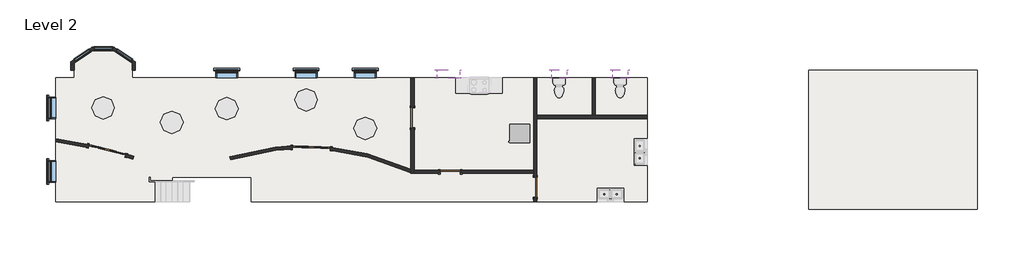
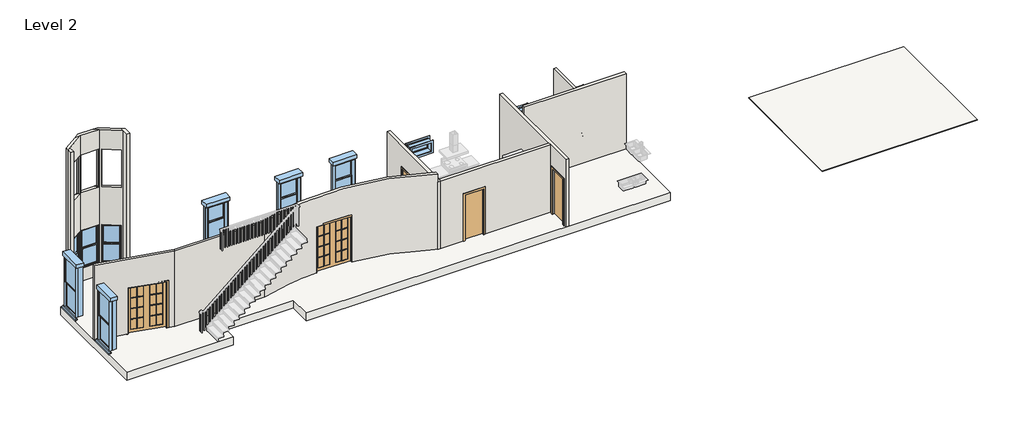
# One storey, part 1 of 2: 13 walls, 11 windows, 5 doors, 1 roof, 1 slab.
"""IFC4 building model written with IfcOpenShell, lengths in millimetres."""

from ifc_helpers import new_model, si_unit, point, frame, frame_2d, origin, place, context, project, spatial, polyline, circle_curve, trimmed, segment, composite_curve, outline, extrude, faceted_brep, transform, mapped, element, save
from ifc_brep_helpers import plane_surface, cylinder_surface, revolved_surface, advanced_brep
from components import door_341c2aa2, door_a75b9756, window_288415e7, window_0ba6dfd4, window_be88543d, window_9c3e4402, window_bb48f2e8

model = new_model("IFC4")

# Units and contexts
model_context = context("Model", 3, world=origin())
ifc_project = project(units=[si_unit("LENGTHUNIT", "METRE", prefix="MILLI")], contexts=[model_context])

# Site, building, storey
site = spatial("IfcSite", under=ifc_project)
building = spatial("IfcBuilding", under=site)
storey = spatial("IfcBuildingStorey", under=building, Name="Level 2", Elevation=3505.2)

# Doors
placement = place(None, origin())
door_shape = door_341c2aa2(model_context)
element("IfcDoor", 1, ObjectType="DOOR- : 60\" x 84\"", at=placement, inside=storey, context=model_context, shape_type="MappedRepresentation", body=[
    mapped(door_shape, transform((-9702.5941765, 363.3320311, 3505.2), x_axis=(0.999522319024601, -0.03090523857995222, 0.0), y_axis=(0.03090523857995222, 0.999522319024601, 0.0), z_axis=(0.0, 0.0, 1.0))),
])
element("IfcDoor", 2, ObjectType="DOOR- : 60\" x 84\"", at=placement, inside=storey, context=model_context, shape_type="MappedRepresentation", body=[
    mapped(door_shape, transform((-17945.6011441, 260.6575416, 3505.2), x_axis=(0.9696003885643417, -0.24469386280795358, 0.0), y_axis=(0.24469386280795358, 0.9696003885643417, 0.0), z_axis=(0.0, 0.0, 1.0))),
])
door_2_shape = door_a75b9756(model_context)
element("IfcDoor", 3, ObjectType="DOOR-Single-Flush : 32\" x 84\"", at=placement, inside=storey, context=model_context, shape_type="MappedRepresentation", body=[
    mapped(door_2_shape, transform((-5624.6535292, 1585.9435985, 3505.2), x_axis=(0.0, 1.0, 0.0), y_axis=(-1.0, 0.0, 0.0), z_axis=(0.0, 0.0, 1.0))),
])
element("IfcDoor", 4, ObjectType="DOOR-Single-Flush : 32\" x 84\"", at=placement, inside=storey, context=model_context, shape_type="MappedRepresentation", body=[
    mapped(door_2_shape, transform((-671.6535292, -1220.7564015, 3505.2), x_axis=(0.0, -1.0, 0.0), y_axis=(1.0, 0.0, 0.0), z_axis=(0.0, 0.0, 1.0))),
])
element("IfcDoor", 5, ObjectType="DOOR-Single-Flush : 32\" x 84\"", at=placement, inside=storey, context=model_context, shape_type="MappedRepresentation", body=[
    mapped(door_2_shape, transform((-4100.6535292, -592.1064015, 3505.2), x_axis=(1.0, 0.0, 0.0), y_axis=(0.0, 1.0, 0.0), z_axis=(0.0, 0.0, 1.0))),
])

# Roof
element("IfcRoof", 6, ObjectType="Generic - 1\"", at=placement, inside=storey, context=model_context, shape_type="SweptSolid", body=[
    extrude(outline(polyline([(10364.6464708, -2103.4064015), (10364.6464708, 3509.9935985), (17171.8464708, 3509.9935985), (17171.8464708, -2103.4064015), (10364.6464708, -2103.4064015)])), frame((0.0, 0.0, 2387.6), z_axis=(0.0, 0.0, 1.0), x_axis=(1.0, 0.0, 0.0)), (0.0, 0.0, 1.0), 25.4),
])

# Slab
element("IfcSlab", 7, ObjectType="1501 Joist floor", at=placement, inside=storey, context=model_context, shape_type="SweptSolid", body=[
    extrude(outline(polyline([(-19277.130434, 3205.1935985), (-19277.130434, 3789.3935985), (-18523.989462, 4297.3935985), (-17693.471406, 4297.3935985), (-16940.330434, 3789.3935985), (-16940.330434, 3205.1935985), (3849.5464708, 3205.1935985), (3849.5464708, -1798.6064015), (-12127.0535292, -1798.6064015), (-12127.0535292, -820.7064015), (-15327.4535292, -820.7064015), (-15327.4535292, -1798.6064015), (-20013.7535292, -1798.6064015), (-20013.7535292, 3205.1935985), (-19277.130434, 3205.1935985)])), frame((0.0, 0.0, 3143.25), z_axis=(0.0, 0.0, 1.0), x_axis=(1.0, 0.0, 0.0)), (0.0, 0.0, 1.0), 361.95),
])

# Walls
element("IfcWall", 8, ObjectType="1501 Bay Window Exterior wall", at=placement, inside=storey, context=model_context, shape_type="Brep", body=[
    faceted_brep([(-16813.330434, 3509.9935985, 2906.8100775), (-16813.330434, 3856.9206963, 2906.8100775), (-16813.330434, 3856.9206963, 10287.0), (-16813.330434, 3509.9935985, 10287.0), (-16940.330434, 3942.5832779, 2906.8100775), (-16940.330434, 3509.9935985, 2906.8100775), (-16940.330434, 3509.9935985, 3143.25), (-16940.330434, 3509.9935985, 10287.0), (-16940.330434, 3789.3935985, 10287.0), (-16940.330434, 3942.5832779, 10287.0), (-16940.330434, 3942.5832779, 9378.95), (-16940.330434, 3906.2004866, 9378.95), (-16940.330434, 3906.2004866, 7626.35), (-16940.330434, 3942.5832779, 7626.35), (-16940.330434, 3942.5832779, 5867.4), (-16940.330434, 3906.2004866, 5867.4), (-16940.330434, 3906.2004866, 4114.8), (-16940.330434, 3942.5832779, 4114.8), (-16923.4636657, 3931.206499, 4114.8), (-16923.4636657, 3931.206499, 5867.4), (-16923.4636657, 3931.206499, 7626.35), (-16923.4636657, 3931.206499, 9378.95)], [[[0, 1, 2, 3]], [[4, 5, 6, 7, 8, 9, 10, 11, 12, 13, 14, 15, 16, 17]], [[1, 0, 5, 4]], [[3, 2, 9, 8, 7]], [[2, 1, 4, 17, 18, 19, 14, 13, 20, 21, 10, 9]], [[15, 19, 18, 16]], [[16, 18, 17]], [[19, 15, 14]], [[11, 21, 20, 12]], [[12, 20, 13]], [[21, 11, 10]], [[0, 3, 7, 6, 5]]]),
])
element("IfcWall", 9, ObjectType="1501 Bay Window Exterior wall", at=placement, inside=storey, context=model_context, shape_type="Brep", body=[
    faceted_brep([(-16940.330434, 3942.5832779, 2905.7063073), (-17654.6436095, 4424.3935985, 2905.7063073), (-17654.6436095, 4424.3935985, 3346.5435033), (-17654.6436095, 4424.3935985, 8764.0583333), (-17654.6436095, 4424.3935985, 10287.0), (-16940.330434, 3942.5832779, 10287.0), (-16940.330434, 3942.5832779, 9378.95), (-17555.190296, 4357.3114915, 9378.95), (-17555.190296, 4357.3114915, 7626.35), (-16940.330434, 3942.5832779, 7626.35), (-16940.330434, 3942.5832779, 5867.4), (-17555.190296, 4357.3114915, 5867.4), (-17555.190296, 4357.3114915, 4114.8), (-16940.330434, 3942.5832779, 4114.8), (-16940.330434, 3942.5832779, 2906.8100775), (-17881.756649, 4424.3935985, 2905.7063073), (-17693.471406, 4297.3935985, 2905.7063073), (-16940.330434, 3789.3935985, 2905.7063073), (-16940.330434, 3789.3935985, 10287.0), (-17693.471406, 4297.3935985, 10287.0), (-17881.756649, 4424.3935985, 10287.0), (-17881.756649, 4424.3935985, 9378.95), (-17727.7207329, 4320.4950611, 9378.95), (-17727.7207329, 4320.4950611, 7626.35), (-17881.756649, 4424.3935985, 7626.35), (-17881.756649, 4424.3935985, 5867.4), (-17727.7207329, 4320.4950611, 5867.4), (-17727.7207329, 4320.4950611, 4114.8), (-17881.756649, 4424.3935985, 4114.8), (-16994.4811644, 3825.9187273, 5867.4), (-16994.4811644, 3825.9187273, 4114.8), (-17626.2077947, 4252.0237198, 4114.8), (-17626.2077947, 4252.0237198, 5867.4), (-16994.4811644, 3825.9187273, 9378.95), (-16994.4811644, 3825.9187273, 7626.35), (-17626.2077947, 4252.0237198, 7626.35), (-17626.2077947, 4252.0237198, 9378.95), (-16940.330434, 3906.2004866, 4114.8), (-16940.330434, 3906.2004866, 5867.4), (-16940.330434, 3906.2004866, 7626.35), (-16940.330434, 3906.2004866, 9378.95), (-17727.7207329, 4424.3935985, 4114.8), (-17727.7207329, 4424.3935985, 5867.4), (-17727.7207329, 4424.3935985, 7626.35), (-17727.7207329, 4424.3935985, 9378.95)], [[[0, 1, 2, 3, 4, 5, 6, 7, 8, 9, 10, 11, 12, 13, 14]], [[15, 16, 17, 18, 19, 20, 21, 22, 23, 24, 25, 26, 27, 28], [29, 30, 31, 32], [33, 34, 35, 36]], [[1, 0, 17, 16, 15]], [[5, 4, 20, 19, 18]], [[5, 18, 17, 0, 14, 13, 37, 38, 10, 9, 39, 40, 6]], [[1, 15, 28, 41, 42, 25, 24, 43, 44, 21, 20, 4, 3, 2]], [[26, 42, 41, 27]], [[27, 41, 28]], [[42, 26, 25]], [[29, 38, 37, 30]], [[30, 37, 13, 12, 31]], [[31, 12, 11, 32]], [[38, 29, 32, 11, 10]], [[33, 40, 39, 34]], [[34, 39, 9, 8, 35]], [[35, 8, 7, 36]], [[40, 33, 36, 7, 6]], [[22, 44, 43, 23]], [[23, 43, 24]], [[44, 22, 21]]]),
])
element("IfcWall", 10, ObjectType="1501 Bay Window Exterior wall", at=placement, inside=storey, context=model_context, shape_type="Brep", body=[
    faceted_brep([(-17881.756649, 4424.3935985, 2905.7063073), (-18562.8172586, 4424.3935985, 2905.7063073), (-18562.8172586, 4424.3935985, 10287.0), (-17881.756649, 4424.3935985, 10287.0), (-17881.756649, 4424.3935985, 9378.95), (-18489.7207329, 4424.3935985, 9378.95), (-18489.7207329, 4424.3935985, 7626.35), (-17881.756649, 4424.3935985, 7626.35), (-17881.756649, 4424.3935985, 5867.4), (-18489.7207329, 4424.3935985, 5867.4), (-18489.7207329, 4424.3935985, 4114.8), (-17881.756649, 4424.3935985, 4114.8), (-18751.1025016, 4297.3935985, 2905.7063073), (-17693.471406, 4297.3935985, 2905.7063073), (-17693.471406, 4297.3935985, 10287.0), (-18523.989462, 4297.3935985, 10287.0), (-18751.1025016, 4297.3935985, 10287.0), (-18751.1025016, 4297.3935985, 9378.95), (-18612.0211452, 4297.3935985, 9378.95), (-18612.0211452, 4297.3935985, 7626.35), (-18751.1025016, 4297.3935985, 7626.35), (-18751.1025016, 4297.3935985, 5867.4), (-18612.0211452, 4297.3935985, 5867.4), (-18612.0211452, 4297.3935985, 4114.8), (-18751.1025016, 4297.3935985, 4114.8), (-18751.1025016, 4297.3935985, 2906.6522269), (-17727.7207329, 4297.3935985, 5867.4), (-17727.7207329, 4297.3935985, 4114.8), (-18489.7207329, 4297.3935985, 4114.8), (-18489.7207329, 4297.3935985, 5867.4), (-17727.7207329, 4297.3935985, 9378.95), (-17727.7207329, 4297.3935985, 7626.35), (-18489.7207329, 4297.3935985, 7626.35), (-18489.7207329, 4297.3935985, 9378.95), (-17727.7207329, 4320.4950611, 4114.8), (-17727.7207329, 4320.4950611, 5867.4), (-17727.7207329, 4320.4950611, 7626.35), (-17727.7207329, 4320.4950611, 9378.95), (-18655.5114269, 4361.8705925, 4114.8), (-18655.5114269, 4361.8705925, 5867.4), (-18655.5114269, 4361.8705925, 7626.35), (-18655.5114269, 4361.8705925, 9378.95)], [[[0, 1, 2, 3, 4, 5, 6, 7, 8, 9, 10, 11]], [[12, 13, 14, 15, 16, 17, 18, 19, 20, 21, 22, 23, 24, 25], [26, 27, 28, 29], [30, 31, 32, 33]], [[1, 0, 13, 12]], [[3, 2, 16, 15, 14]], [[3, 14, 13, 0, 11, 34, 35, 8, 7, 36, 37, 4]], [[2, 1, 12, 25, 24, 38, 39, 21, 20, 40, 41, 17, 16]], [[22, 39, 38, 23]], [[23, 38, 24]], [[39, 22, 21]], [[26, 35, 34, 27]], [[27, 34, 11, 10, 28]], [[28, 10, 9, 29]], [[35, 26, 29, 9, 8]], [[30, 37, 36, 31]], [[31, 36, 7, 6, 32]], [[32, 6, 5, 33]], [[37, 30, 33, 5, 4]], [[18, 41, 40, 19]], [[19, 40, 20]], [[41, 18, 17]]]),
])
element("IfcWall", 11, ObjectType="1501 Bay Window Exterior wall", at=placement, inside=storey, context=model_context, shape_type="Brep", body=[
    faceted_brep([(-18751.1025016, 4297.3935985, 2906.6522269), (-19404.130434, 3856.9206963, 2906.6522269), (-19404.130434, 3856.9206963, 3375.1185033), (-19404.130434, 3856.9206963, 8764.0583333), (-19404.130434, 3856.9206963, 10287.0), (-18751.1025016, 4297.3935985, 10287.0), (-18751.1025016, 4297.3935985, 9378.95), (-19287.2380571, 3935.7656001, 9378.95), (-19287.2380571, 3935.7656001, 7626.35), (-18751.1025016, 4297.3935985, 7626.35), (-18751.1025016, 4297.3935985, 5867.4), (-19287.2380571, 3935.7656001, 5867.4), (-19287.2380571, 3935.7656001, 4114.8), (-18751.1025016, 4297.3935985, 4114.8), (-19404.130434, 3703.7310168, 2906.6522269), (-19277.130434, 3789.3935985, 2906.6522269), (-18523.989462, 4297.3935985, 2906.6522269), (-18523.989462, 4297.3935985, 10287.0), (-19277.130434, 3789.3935985, 10287.0), (-19404.130434, 3703.7310168, 10287.0), (-18584.4939281, 4256.5828208, 5867.4), (-18584.4939281, 4256.5828208, 4114.8), (-19216.2205584, 3830.4778284, 4114.8), (-19216.2205584, 3830.4778284, 5867.4), (-18584.4939281, 4256.5828208, 9378.95), (-18584.4939281, 4256.5828208, 7626.35), (-19216.2205584, 3830.4778284, 7626.35), (-19216.2205584, 3830.4778284, 9378.95), (-18612.0211452, 4297.3935985, 4114.8), (-18612.0211452, 4297.3935985, 5867.4), (-18612.0211452, 4297.3935985, 7626.35), (-18612.0211452, 4297.3935985, 9378.95)], [[[0, 1, 2, 3, 4, 5, 6, 7, 8, 9, 10, 11, 12, 13]], [[14, 15, 16, 17, 18, 19], [20, 21, 22, 23], [24, 25, 26, 27]], [[1, 0, 16, 15, 14]], [[5, 4, 19, 18, 17]], [[5, 17, 16, 0, 13, 28, 29, 10, 9, 30, 31, 6]], [[1, 14, 19, 4, 3, 2]], [[20, 29, 28, 21]], [[21, 28, 13, 12, 22]], [[22, 12, 11, 23]], [[29, 20, 23, 11, 10]], [[24, 31, 30, 25]], [[25, 30, 9, 8, 26]], [[26, 8, 7, 27]], [[31, 24, 27, 7, 6]]]),
])
element("IfcWall", 12, ObjectType="1501 Bay Window Exterior wall", at=placement, inside=storey, context=model_context, shape_type="Brep", body=[
    faceted_brep([(-19404.130434, 3703.7310168, 2906.6522269), (-19404.130434, 3509.9935985, 2906.6522269), (-19404.130434, 3509.9935985, 10287.0), (-19404.130434, 3703.7310168, 10287.0), (-19277.130434, 3789.3935985, 2906.6522269), (-19277.130434, 3789.3935985, 10287.0), (-19277.130434, 3509.9935985, 10287.0), (-19277.130434, 3509.9935985, 3143.25), (-19277.130434, 3509.9935985, 2906.6522269)], [[[0, 1, 2, 3]], [[4, 5, 6, 7, 8]], [[1, 0, 4, 8]], [[3, 2, 6, 5]], [[0, 3, 5, 4]], [[1, 8, 7, 6, 2]]]),
])
element("IfcWall", 13, ObjectType="Generic - 5\"", at=placement, inside=storey, context=model_context, shape_type="Brep", body=[
    faceted_brep([(-608.1535292, -1798.6064015, 3505.2), (-608.1535292, -1627.1564015, 3505.2), (-608.1535292, -1627.1564015, 5638.8), (-608.1535292, -814.3564015, 5638.8), (-608.1535292, -814.3564015, 3505.2), (-608.1535292, 1554.1935985, 3505.2), (-608.1535292, 1681.1935985, 3505.2), (-608.1535292, 3205.1935985, 3505.2), (-608.1535292, 3205.1935985, 6648.45), (-608.1535292, -1798.6064015, 6648.45), (-735.1535292, -1627.1564015, 5638.8), (-735.1535292, -1627.1564015, 3505.2), (-735.1535292, -1798.6064015, 3505.2), (-735.1535292, -1798.6064015, 6648.45), (-735.1535292, -655.6064015, 6648.45), (-735.1535292, -528.6064015, 6648.45), (-735.1535292, 3205.1935985, 6648.45), (-735.1535292, 3205.1935985, 3505.2), (-735.1535292, -528.6064015, 3505.2), (-735.1535292, -655.6064015, 3505.2), (-735.1535292, -814.3564015, 3505.2), (-735.1535292, -814.3564015, 5638.8)], [[[0, 1, 2, 3, 4, 5, 6, 7, 8, 9]], [[10, 11, 12, 13, 14, 15, 16, 17, 18, 19, 20, 21]], [[12, 11, 1, 0]], [[20, 19, 18, 17, 7, 6, 5, 4]], [[9, 8, 16, 15, 14, 13]], [[8, 7, 17, 16]], [[0, 9, 13, 12]], [[2, 1, 11, 10]], [[3, 2, 10, 21]], [[4, 3, 21, 20]]]),
])
element("IfcWall", 14, ObjectType="Generic - 5\"", at=placement, inside=storey, context=model_context, shape_type="Brep", body=[
    faceted_brep([(-5561.1535292, 3205.1935985, 6648.45), (-5561.1535292, -528.6064015, 6648.45), (-5561.1535292, -655.6064015, 6648.45), (-5561.1535292, -655.6064015, 3505.2), (-5561.1535292, -528.6064015, 3505.2), (-5561.1535292, 1179.5435985, 3505.2), (-5561.1535292, 1179.5435985, 5638.8), (-5561.1535292, 1992.3435985, 5638.8), (-5561.1535292, 1992.3435985, 3505.2), (-5561.1535292, 3205.1935985, 3505.2), (-5688.1535292, -655.6064015, 6648.45), (-5688.1535292, 3205.1935985, 6648.45), (-5688.1535292, 3205.1935985, 3505.2), (-5688.1535292, 1992.3435985, 3505.2), (-5688.1535292, 1992.3435985, 5638.8), (-5688.1535292, 1179.5435985, 5638.8), (-5688.1535292, 1179.5435985, 3505.2), (-5688.1535292, -492.2644793, 3505.2), (-5688.1535292, -632.3638108, 3505.2), (-5688.1535292, -655.6064015, 3505.2)], [[[0, 1, 2, 3, 4, 5, 6, 7, 8, 9]], [[10, 11, 12, 13, 14, 15, 16, 17, 18, 19]], [[12, 9, 8, 13]], [[3, 19, 18, 17, 16, 5, 4]], [[2, 1, 0, 11, 10]], [[0, 9, 12, 11]], [[7, 14, 13, 8]], [[14, 7, 6, 15]], [[15, 6, 5, 16]], [[3, 2, 10, 19]]]),
])
element("IfcWall", 15, ObjectType="Generic - 5\"", at=placement, inside=storey, context=model_context, shape_type="SweptSolid", body=[
    extrude(outline(polyline([(5638.8, -3694.2535292), (3505.2, -3694.2535292), (3505.2, -735.1535292), (6648.45, -735.1535292), (6648.45, -5561.1535292), (3505.2, -5561.1535292), (3505.2, -4507.0535292), (5638.8, -4507.0535292), (5638.8, -3694.2535292)])), frame((0.0, -655.6064015, 0.0), z_axis=(0.0, 1.0, 0.0), x_axis=(0.0, 0.0, 1.0)), (0.0, 0.0, 1.0), 127.0),
])
element("IfcWall", 16, ObjectType="Generic - 5\"", at=placement, inside=storey, context=model_context, shape_type="SweptSolid", body=[
    extrude(outline(composite_curve([segment(polyline([(-13000.5037916, 20.1149555), (-12963.8118242, -101.4691698)]), True, "CONTINUOUS"), segment(trimmed(circle_curve(frame_2d((-14904.9931191, 6330.9149966)), 6718.9099476), [point((-12963.8118242, -101.4691698))], [point((-16905.2361275, -83.3487017))], False, "CARTESIAN"), True, "CONTINUOUS"), segment(polyline([(-16905.2361275, -83.3487017), (-16867.4277829, 37.8929128)]), True, "CONTINUOUS"), segment(trimmed(circle_curve(frame_2d((-14904.9931191, 6330.9149966)), 6591.9099476), [point((-16867.4277829, 37.8929128))], [point((-13000.5037916, 20.1149555))], True, "CARTESIAN"), True, "CONTINUOUS")], self_intersect=False)), frame((0.0, 0.0, 3505.2), z_axis=(0.0, 0.0, 1.0), x_axis=(1.0, 0.0, 0.0)), (0.0, 0.0, 1.0), 3505.2),
])
element("IfcWall", 17, ObjectType="Generic - 5\"", at=placement, inside=storey, context=model_context, shape_type="AdvancedBrep", body=[
    advanced_brep(
    [(-16867.4277829, 37.8929128, 7010.4), (-16905.2361275, -83.3487017, 7010.4), (-16905.2361275, -83.3487017, 3505.2), (-16867.4277829, 37.8929128, 3505.2), (-20013.7535292, 746.3767763, 7010.4), (-20013.7535292, 618.1013458, 7010.4), (-20013.7535292, 618.1013458, 3505.2), (-20013.7535292, 746.3767763, 3505.2), (-18668.8758067, 508.774129, 3505.2), (-18699.9747005, 385.5446404, 3505.2), (-17222.3037084, 12.6311935, 3505.2), (-17191.2048145, 135.8606821, 3505.2), (-17191.2048145, 135.8606821, 5638.8), (-18668.8758067, 508.774129, 5638.8), (-18699.9747005, 385.5446404, 5638.8), (-17222.3037084, 12.6311935, 5638.8)],
    [
        (0, 1),
        (1, 2),
        (2, 3),
        (3, 0),
        (0, 4, circle_curve(frame((-22815.110523, -19034.7924204, 7010.4), z_axis=(0.0, 0.0, 1.0), x_axis=(1.0, 0.0, 0.0)), 19978.5448869)),
        (4, 5),
        (5, 1, circle_curve(frame((-22815.110523, -19034.7924204, 7010.4), z_axis=(0.0, 0.0, -1.0), x_axis=(1.0, 0.0, 0.0)), 19851.5448869)),
        (6, 7),
        (7, 8, circle_curve(frame((-22815.110523, -19034.7924204, 3505.2), z_axis=(0.0, 0.0, -1.0), x_axis=(1.0, 0.0, 0.0)), 19978.5448869)),
        (8, 9),
        (9, 6, circle_curve(frame((-22815.110523, -19034.7924204, 3505.2), z_axis=(0.0, 0.0, 1.0), x_axis=(1.0, 0.0, 0.0)), 19851.5448869)),
        (2, 10, circle_curve(frame((-22815.110523, -19034.7924204, 3505.2), z_axis=(0.0, 0.0, 1.0), x_axis=(1.0, 0.0, 0.0)), 19851.5448869)),
        (10, 11),
        (11, 3, circle_curve(frame((-22815.110523, -19034.7924204, 3505.2), z_axis=(0.0, 0.0, -1.0), x_axis=(1.0, 0.0, 0.0)), 19978.5448869)),
        (11, 12),
        (12, 13, circle_curve(frame((-22815.110523, -19034.7924204, 5638.8), z_axis=(0.0, 0.0, 1.0), x_axis=(1.0, 0.0, 0.0)), 19978.5448869)),
        (13, 8),
        (7, 4),
        (5, 6),
        (9, 14),
        (14, 15, circle_curve(frame((-22815.110523, -19034.7924204, 5638.8), z_axis=(0.0, 0.0, -1.0), x_axis=(1.0, 0.0, 0.0)), 19851.5448869)),
        (15, 10),
        (15, 12),
        (14, 13),
    ],
    [
        plane_surface(frame((-16905.2361275, -83.3487017, 7010.4), z_axis=(0.9546583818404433, -0.2977035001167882, 0.0), x_axis=(0.0, 0.0, -1.0))),
        plane_surface(frame((-2836.5656361, -19034.7924204, 7010.4), z_axis=(0.0, 0.0, 1.0), x_axis=(0.0, 1.0, 0.0))),
        plane_surface(frame((-2836.5656361, -19034.7924204, 3505.2), z_axis=(0.0, 0.0, -1.0), x_axis=(0.0, -1.0, 0.0))),
        cylinder_surface(frame((-22815.110523, -19034.7924204, 3505.2), z_axis=(0.0, 0.0, 1.0), x_axis=(1.0, 0.0, 0.0)), 19978.5448869),
        revolved_surface(polyline([(-2963.5656361, -19034.7924204, 3505.2), (-2963.5656361, -19034.7924204, 7010.4)]), (-22815.110523, -19034.7924204, 3505.2), (0.0, 0.0, -1.0)),
        plane_surface(frame((-20013.7535292, 2290.7935985, -1117.6), z_axis=(-1.0, 0.0, 0.0), x_axis=(0.0, 1.0, 0.0))),
        plane_surface(frame((-17595.2171553, -1465.0397987, 3505.2), z_axis=(-0.969600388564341, 0.24469386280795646, 0.0), x_axis=(0.24469386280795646, 0.969600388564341, 0.0))),
        plane_surface(frame((-17595.2171553, -1465.0397987, 5638.8), z_axis=(0.0, 0.0, -1.0000000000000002), x_axis=(0.24469386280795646, 0.969600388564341, 0.0))),
        plane_surface(frame((-19072.8881474, -1092.1263517, 5638.8), z_axis=(0.969600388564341, -0.24469386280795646, 0.0), x_axis=(0.24469386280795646, 0.969600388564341, 0.0))),
    ],
    [
        (0, [[1, 2, 3, 4]]),
        (1, [[5, 6, 7, -1]]),
        (2, [[8, 9, 10, 11]]),
        (2, [[-3, 12, 13, 14]]),
        (3, [[-5, -4, -14, 15, 16, 17, -9, 18]]),
        (4, [[-7, 19, -11, 20, 21, 22, -12, -2]]),
        (5, [[-6, -18, -8, -19]]),
        (6, [[23, -15, -13, -22]]),
        (7, [[-23, -21, 24, -16]]),
        (8, [[-24, -20, -10, -17]]),
    ],
),
])
element("IfcWall", 18, ObjectType="Generic - 5\"", at=placement, inside=storey, context=model_context, shape_type="AdvancedBrep", body=[
    advanced_brep(
    [(-12963.8118242, -101.4691698, 7010.4), (-13000.5037916, 20.1149555, 7010.4), (-13000.5037916, 20.1149555, 3505.2), (-12963.8118242, -101.4691698, 3505.2), (-5688.1535292, -492.2644793, 7010.4), (-5688.1535292, -632.3638108, 7010.4), (-10462.2568248, 450.703242, 3505.2), (-10466.1926662, 323.4121556, 3505.2), (-5688.1535292, -492.2644793, 3505.2), (-5688.1535292, -632.3638108, 3505.2), (-8942.920652, 276.312572, 3505.2), (-8938.9848106, 403.6036584, 3505.2), (-8938.9848106, 403.6036584, 5638.8), (-10462.2568248, 450.703242, 5638.8), (-10466.1926662, 323.4121556, 5638.8), (-8942.920652, 276.312572, 5638.8)],
    [
        (0, 1),
        (1, 2),
        (2, 3),
        (3, 0),
        (4, 1, circle_curve(frame((-10018.7143566, -9860.4743535, 7010.4), z_axis=(0.0, 0.0, 1.0), x_axis=(1.0, 0.0, 0.0)), 10320.7128304)),
        (0, 5, circle_curve(frame((-10018.7143566, -9860.4743535, 7010.4), z_axis=(0.0, 0.0, -1.0), x_axis=(1.0, 0.0, 0.0)), 10193.7128304)),
        (5, 4),
        (2, 6, circle_curve(frame((-10018.7143566, -9860.4743535, 3505.2), z_axis=(0.0, 0.0, -1.0), x_axis=(1.0, 0.0, 0.0)), 10320.7128304)),
        (6, 7),
        (7, 3, circle_curve(frame((-10018.7143566, -9860.4743535, 3505.2), z_axis=(0.0, 0.0, 1.0), x_axis=(1.0, 0.0, 0.0)), 10193.7128304)),
        (8, 9),
        (9, 10, circle_curve(frame((-10018.7143566, -9860.4743535, 3505.2), z_axis=(0.0, 0.0, 1.0), x_axis=(1.0, 0.0, 0.0)), 10193.7128304)),
        (10, 11),
        (11, 8, circle_curve(frame((-10018.7143566, -9860.4743535, 3505.2), z_axis=(0.0, 0.0, -1.0), x_axis=(1.0, 0.0, 0.0)), 10320.7128304)),
        (4, 8),
        (11, 12),
        (12, 13, circle_curve(frame((-10018.7143566, -9860.4743535, 5638.8), z_axis=(0.0, 0.0, 1.0), x_axis=(1.0, 0.0, 0.0)), 10320.7128304)),
        (13, 6),
        (7, 14),
        (14, 15, circle_curve(frame((-10018.7143566, -9860.4743535, 5638.8), z_axis=(0.0, 0.0, -1.0), x_axis=(1.0, 0.0, 0.0)), 10193.7128304)),
        (15, 10),
        (9, 5),
        (15, 12),
        (14, 13),
    ],
    [
        plane_surface(frame((-13000.5037916, 20.1149555, 7010.4), z_axis=(-0.9573553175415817, -0.2889131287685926, 0.0), x_axis=(0.0, 0.0, -1.0))),
        plane_surface(frame((301.9984738, -9860.4743535, 7010.4), z_axis=(0.0, 0.0, 1.0), x_axis=(0.0, 1.0, 0.0))),
        plane_surface(frame((301.9984738, -9860.4743535, 3505.2), z_axis=(0.0, 0.0, -1.0), x_axis=(0.0, -1.0, 0.0))),
        cylinder_surface(frame((-10018.7143566, -9860.4743535, 3505.2), z_axis=(0.0, 0.0, 1.0), x_axis=(1.0, 0.0, 0.0)), 10320.7128304),
        revolved_surface(polyline([(174.99847380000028, -9860.4743535, 3505.2), (174.99847380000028, -9860.4743535, 7010.4)]), (-10018.7143566, -9860.4743535, 3505.2), (0.0, 0.0, -1.0)),
        plane_surface(frame((-5688.1535292, -1798.6064015, 3505.2), z_axis=(1.0, 0.0, 0.0), x_axis=(0.0, -1.0, 0.0))),
        plane_surface(frame((-8990.0202356, -1246.9594421, 3505.2), z_axis=(-0.9995223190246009, 0.030905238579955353, 0.0), x_axis=(0.030905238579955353, 0.9995223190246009, 0.0))),
        plane_surface(frame((-8990.0202356, -1246.9594421, 5638.8), z_axis=(0.0, 0.0, -1.0), x_axis=(0.030905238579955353, 0.9995223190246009, 0.0))),
        plane_surface(frame((-10513.2922498, -1199.8598585, 5638.8), z_axis=(0.9995223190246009, -0.030905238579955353, 0.0), x_axis=(0.030905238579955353, 0.9995223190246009, 0.0))),
    ],
    [
        (0, [[1, 2, 3, 4]]),
        (1, [[5, -1, 6, 7]]),
        (2, [[-3, 8, 9, 10]]),
        (2, [[11, 12, 13, 14]]),
        (3, [[-5, 15, -14, 16, 17, 18, -8, -2]]),
        (4, [[-6, -4, -10, 19, 20, 21, -12, 22]]),
        (5, [[-7, -22, -11, -15]]),
        (6, [[23, -16, -13, -21]]),
        (7, [[-23, -20, 24, -17]]),
        (8, [[-24, -19, -9, -18]]),
    ],
),
])
element("IfcWall", 19, ObjectType="Generic - 5\"", at=placement, inside=storey, context=model_context, shape_type="Brep", body=[
    faceted_brep([(-608.1535292, 1554.1935985, 3505.2), (3849.5464708, 1554.1935985, 3505.2), (3849.5464708, 1554.1935985, 7008.8047278), (-608.1535292, 1554.1935985, 7008.8047278), (-608.1535292, 1681.1935985, 3505.2), (-608.1535292, 1681.1935985, 7008.8047278), (1620.6964708, 1681.1935985, 7008.8047278), (1747.6964708, 1681.1935985, 7008.8047278), (3849.5464708, 1681.1935985, 7008.8047278), (3849.5464708, 1681.1935985, 3505.2), (1747.6964708, 1681.1935985, 3505.2), (1620.6964708, 1681.1935985, 3505.2)], [[[0, 1, 2, 3]], [[4, 5, 6, 7, 8, 9, 10, 11]], [[1, 0, 4, 11, 10, 9]], [[3, 2, 8, 7, 6, 5]], [[2, 1, 9, 8]], [[0, 3, 5, 4]]]),
])
element("IfcWall", 20, ObjectType="Generic - 5\"", at=placement, inside=storey, context=model_context, shape_type="SweptSolid", body=[
    extrude(outline(polyline([(1747.6964708, 3205.1935985), (1747.6964708, 1681.1935985), (1620.6964708, 1681.1935985), (1620.6964708, 3205.1935985), (1747.6964708, 3205.1935985)])), frame((0.0, 0.0, 3505.2), z_axis=(0.0, 0.0, 1.0), x_axis=(1.0, 0.0, 0.0)), (0.0, 0.0, 1.0), 3503.6047278),
])

# Windows
window_shape = window_288415e7(model_context)
element("IfcWindow", 21, ObjectType="Double Hung : 2' 6\" x 5' 9\" Typical Window", at=placement, inside=storey, context=model_context, shape_type="MappedRepresentation", body=[
    mapped(window_shape, transform((-18935.8659926, 4096.1742104, 3505.2), x_axis=(0.8290375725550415, 0.5591929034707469, 0.0), y_axis=(-0.5591929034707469, 0.8290375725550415, 0.0), z_axis=(0.0, 0.0, 1.0))),
])
element("IfcWindow", 22, ObjectType="Double Hung : 2' 6\" x 5' 9\" Typical Window", at=placement, inside=storey, context=model_context, shape_type="MappedRepresentation", body=[
    mapped(window_shape, transform((-18108.7207329, 4360.8935985, 3505.2), x_axis=(1.0, 0.0, 0.0), y_axis=(0.0, 1.0, 0.0), z_axis=(0.0, 0.0, 1.0))),
])
element("IfcWindow", 23, ObjectType="Double Hung : 2' 6\" x 5' 9\" Typical Window", at=placement, inside=storey, context=model_context, shape_type="MappedRepresentation", body=[
    mapped(window_shape, transform((-17274.8357302, 4091.6151094, 3505.2), x_axis=(0.8290375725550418, -0.5591929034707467, 0.0), y_axis=(0.5591929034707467, 0.8290375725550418, 0.0), z_axis=(0.0, 0.0, 1.0))),
])
window_2_shape = window_0ba6dfd4(model_context)
element("IfcWindow", 24, ObjectType="Transom with Trim : 24\" x 18\"", at=placement, inside=storey, context=model_context, shape_type="MappedRepresentation", body=[
    mapped(window_2_shape, transform((2795.4464708, 3357.5935985, 2870.2), x_axis=(1.0, 0.0, 0.0), y_axis=(0.0, 1.0, 0.0), z_axis=(0.0, 0.0, 1.0))),
])
element("IfcWindow", 25, ObjectType="Transom with Trim : 24\" x 18\"", at=placement, inside=storey, context=model_context, shape_type="MappedRepresentation", body=[
    mapped(window_2_shape, transform((331.6464708, 3357.5935985, 2870.2), x_axis=(1.0, 0.0, 0.0), y_axis=(0.0, 1.0, 0.0), z_axis=(0.0, 0.0, 1.0))),
])
window_3_shape = window_be88543d(model_context)
element("IfcWindow", 26, ObjectType="Transom with Trim : 36\" x 18\"", at=placement, inside=storey, context=model_context, shape_type="MappedRepresentation", body=[
    mapped(window_3_shape, transform((-4138.7535292, 3357.5935985, 2870.2), x_axis=(1.0, 0.0, 0.0), y_axis=(0.0, 1.0, 0.0), z_axis=(0.0, 0.0, 1.0))),
])
window_4_shape = window_9c3e4402(model_context)
element("IfcWindow", 27, ObjectType="WINDOW-Double Hung : 3' 1\" x 5' 9\" Typical Window", at=placement, inside=storey, context=model_context, shape_type="MappedRepresentation", body=[
    mapped(window_4_shape, transform((-7529.6535292, 3357.5935985, 3505.2), x_axis=(1.0, 0.0, 0.0), y_axis=(0.0, 1.0, 0.0), z_axis=(0.0, 0.0, 1.0))),
])
element("IfcWindow", 28, ObjectType="WINDOW-Double Hung : 3' 1\" x 5' 9\" Typical Window", at=placement, inside=storey, context=model_context, shape_type="MappedRepresentation", body=[
    mapped(window_4_shape, transform((-9917.2535292, 3357.5935985, 3505.2), x_axis=(1.0, 0.0, 0.0), y_axis=(0.0, 1.0, 0.0), z_axis=(0.0, 0.0, 1.0))),
])
element("IfcWindow", 29, ObjectType="WINDOW-Double Hung : 3' 1\" x 5' 9\" Typical Window", at=placement, inside=storey, context=model_context, shape_type="MappedRepresentation", body=[
    mapped(window_4_shape, transform((-13117.6535292, 3357.5935985, 3505.2), x_axis=(1.0, 0.0, 0.0), y_axis=(0.0, 1.0, 0.0), z_axis=(0.0, 0.0, 1.0))),
])
window_5_shape = window_bb48f2e8(model_context)
element("IfcWindow", 30, ObjectType="WINDOW-Double Hung : 34.5\" x 92\" Typical 1st flr Window", at=placement, inside=storey, context=model_context, shape_type="MappedRepresentation", body=[
    mapped(window_5_shape, transform((-20166.1535292, 1985.9935985, 3505.2), x_axis=(0.0, 1.0, 0.0), y_axis=(-1.0, 0.0, 0.0), z_axis=(0.0, 0.0, 1.0))),
])
element("IfcWindow", 31, ObjectType="WINDOW-Double Hung : 34.5\" x 92\" Typical 1st flr Window", at=placement, inside=storey, context=model_context, shape_type="MappedRepresentation", body=[
    mapped(window_5_shape, transform((-20166.1535292, -579.4064015, 3505.2), x_axis=(0.0, 1.0, 0.0), y_axis=(-1.0, 0.0, 0.0), z_axis=(0.0, 0.0, 1.0))),
])

save(model, "model.ifc")
